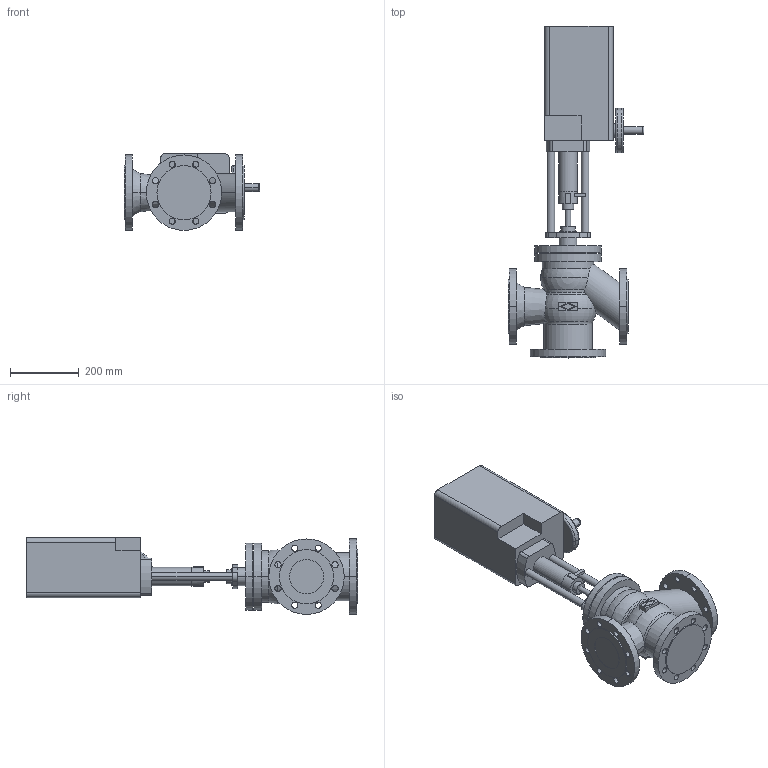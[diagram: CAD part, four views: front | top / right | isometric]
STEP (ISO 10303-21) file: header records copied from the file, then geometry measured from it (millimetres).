
FILE_DESCRIPTION(('OneSpaceDesigner STEP Export'),'2;1');
FILE_NAME('c000002403.stp','2006-09-19T12:03:18',(''),(''),'OneSpace Designer STEP processor for AP214 (Solid Model)','OneSpace Designer 13.20A 18-Aug-2005 (C) CoCreate Software GmbH','');
FILE_SCHEMA(('AUTOMOTIVE_DESIGN { 1 0 10303 214 1 1 1 1 }'));
Length unit declared in the file: millimetre
Products named in the file (2): 1; 2
Bounding box: 396.6 x 968 x 224 mm (x, y, z)
Volume: 22928358.4 mm3; surface area: 973787.1 mm2
Topology: 2 solids, 2 shells, 220 faces, 555 edges, 364 vertices
Faces by surface type: cylinder 114, plane 82, torus 16, sphere 4, cone 4
Entity records: 6072 total; most frequent: CARTESIAN_POINT 1183, ORIENTED_EDGE 1102, DIRECTION 877, EDGE_CURVE 551, VERTEX_POINT 364, AXIS2_PLACEMENT_3D 320, EDGE_LOOP 297, VECTOR 237
